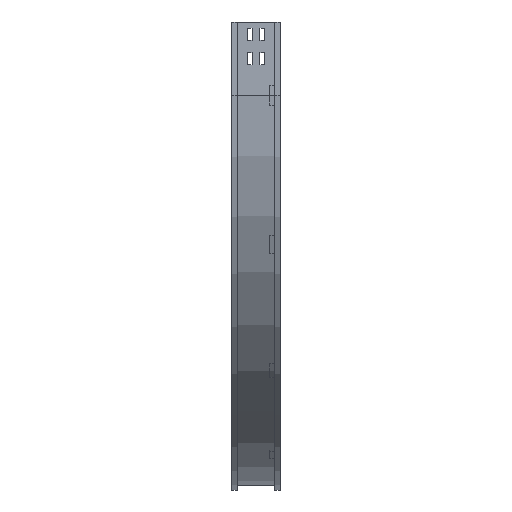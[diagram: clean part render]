
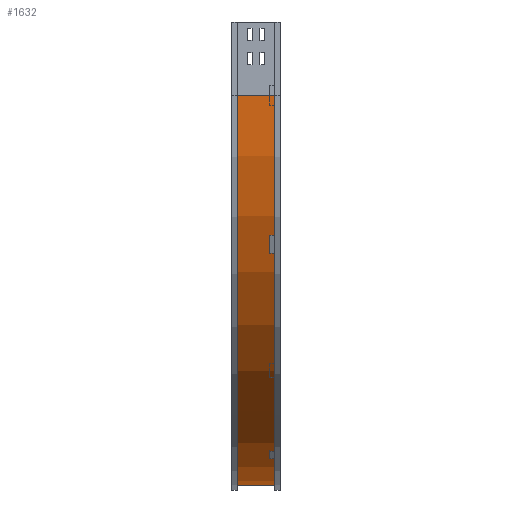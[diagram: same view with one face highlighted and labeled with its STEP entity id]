
A CAD part, left-side view. The second image highlights one B-rep face of the part: STEP entity #1632.
In plain terms, the highlighted cylindrical face has radius 800 mm (diameter 1600 mm), a partial arc.
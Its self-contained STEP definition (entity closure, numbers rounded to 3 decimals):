
#331 = CARTESIAN_POINT ( 'NONE',  ( 809., 12., -950. ) ) ;
#400 = VECTOR ( 'NONE', #2404, 1000. ) ;
#544 = VECTOR ( 'NONE', #1409, 1000. ) ;
#658 = ORIENTED_EDGE ( 'NONE', *, *, #3527, .F. ) ;
#768 = AXIS2_PLACEMENT_3D ( 'NONE', #4253, #1902, #2558 ) ;
#801 = DIRECTION ( 'NONE',  ( 0., 0., -1. ) ) ;
#826 = AXIS2_PLACEMENT_3D ( 'NONE', #2585, #1442, #801 ) ;
#856 = CARTESIAN_POINT ( 'NONE',  ( 9., 12., -150. ) ) ;
#1004 = CARTESIAN_POINT ( 'NONE',  ( 9., 12., -150. ) ) ;
#1328 = LINE ( 'NONE', #3156, #544 ) ;
#1409 = DIRECTION ( 'NONE',  ( 0., -1., 0. ) ) ;
#1442 = DIRECTION ( 'NONE',  ( 0., -1., 0. ) ) ;
#1632 = ADVANCED_FACE ( 'NONE', ( #3947 ), #2939, .T. ) ;
#1644 = AXIS2_PLACEMENT_3D ( 'NONE', #2716, #2054, #3793 ) ;
#1902 = DIRECTION ( 'NONE',  ( 0., -1., 0. ) ) ;
#1952 = CIRCLE ( 'NONE', #768, 800. ) ;
#1964 = EDGE_CURVE ( 'NONE', #1972, #3106, #1328, .T. ) ;
#1972 = VERTEX_POINT ( 'NONE', #4166 ) ;
#2054 = DIRECTION ( 'NONE',  ( 0., -1., 0. ) ) ;
#2360 = EDGE_CURVE ( 'NONE', #3609, #2571, #4161, .T. ) ;
#2404 = DIRECTION ( 'NONE',  ( 0., -1., 0. ) ) ;
#2558 = DIRECTION ( 'NONE',  ( -1., 0., 0. ) ) ;
#2571 = VERTEX_POINT ( 'NONE', #856 ) ;
#2585 = CARTESIAN_POINT ( 'NONE',  ( 809., 0., -150. ) ) ;
#2716 = CARTESIAN_POINT ( 'NONE',  ( 809., 12., -150. ) ) ;
#2722 = ORIENTED_EDGE ( 'NONE', *, *, #1964, .T. ) ;
#2885 = CIRCLE ( 'NONE', #1644, 800. ) ;
#2939 = CYLINDRICAL_SURFACE ( 'NONE', #826, 800. ) ;
#3075 = ORIENTED_EDGE ( 'NONE', *, *, #3236, .T. ) ;
#3106 = VERTEX_POINT ( 'NONE', #331 ) ;
#3156 = CARTESIAN_POINT ( 'NONE',  ( 809., 12., -950. ) ) ;
#3236 = EDGE_CURVE ( 'NONE', #3609, #1972, #1952, .T. ) ;
#3419 = ORIENTED_EDGE ( 'NONE', *, *, #2360, .F. ) ;
#3509 = CARTESIAN_POINT ( 'NONE',  ( 9., 88., -150. ) ) ;
#3527 = EDGE_CURVE ( 'NONE', #2571, #3106, #2885, .T. ) ;
#3609 = VERTEX_POINT ( 'NONE', #3509 ) ;
#3793 = DIRECTION ( 'NONE',  ( -1., 0., 0. ) ) ;
#3947 = FACE_OUTER_BOUND ( 'NONE', #4012, .T. ) ;
#4012 = EDGE_LOOP ( 'NONE', ( #658, #3419, #3075, #2722 ) ) ;
#4161 = LINE ( 'NONE', #1004, #400 ) ;
#4166 = CARTESIAN_POINT ( 'NONE',  ( 809., 88., -950. ) ) ;
#4253 = CARTESIAN_POINT ( 'NONE',  ( 809., 88., -150. ) ) ;
